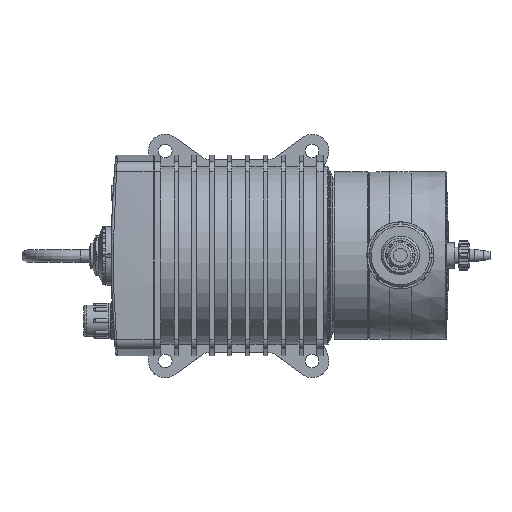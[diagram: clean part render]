
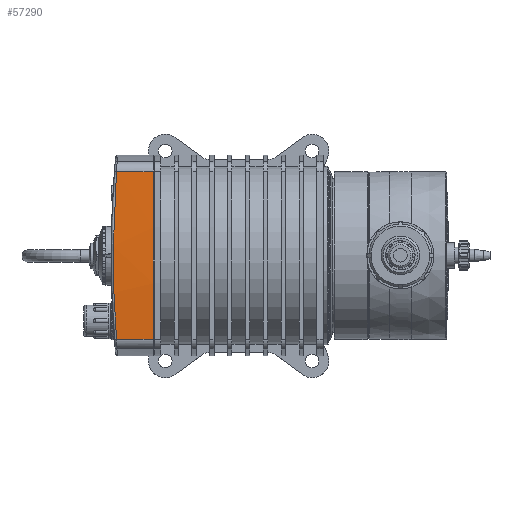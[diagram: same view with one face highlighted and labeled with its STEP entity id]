
A CAD part, top view. The second image highlights one B-rep face of the part: STEP entity #57290.
In plain terms, the highlighted cylindrical face has radius 560 mm (diameter 1120 mm), a partial arc.
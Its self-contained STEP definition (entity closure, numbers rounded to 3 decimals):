
#1501 = LINE ( 'NONE', #41528, #38592 ) ;
#1896 = CARTESIAN_POINT ( 'NONE',  ( -86.5, -39.963, 46.322 ) ) ;
#3829 = ORIENTED_EDGE ( 'NONE', *, *, #28697, .F. ) ;
#4889 = ORIENTED_EDGE ( 'NONE', *, *, #49623, .T. ) ;
#8037 = CARTESIAN_POINT ( 'NONE',  ( -86.5, 39.963, 46.322 ) ) ;
#8742 = CARTESIAN_POINT ( 'NONE',  ( -104.99, 26.642, 47.275 ) ) ;
#8873 = CARTESIAN_POINT ( 'NONE',  ( -417.461, 0., -512.25 ) ) ;
#13098 = CIRCLE ( 'NONE', #60208, 560. ) ;
#13512 = B_SPLINE_CURVE_WITH_KNOTS ( 'NONE', 3,
 ( #89543, #8742, #68008, #23606, #75440 ),
 .UNSPECIFIED., .F., .F.,
 ( 4, 1, 4 ),
 ( 0., 0.04, 0.08 ),
 .UNSPECIFIED. ) ;
#13774 = VECTOR ( 'NONE', #95978, 1000. ) ;
#23271 = ORIENTED_EDGE ( 'NONE', *, *, #53991, .F. ) ;
#23606 = CARTESIAN_POINT ( 'NONE',  ( -104.99, -26.642, 47.275 ) ) ;
#25683 = DIRECTION ( 'NONE',  ( 1., 0., 0. ) ) ;
#27873 = FACE_OUTER_BOUND ( 'NONE', #87657, .T. ) ;
#28697 = EDGE_CURVE ( 'NONE', #54700, #63777, #72882, .T. ) ;
#29176 = VERTEX_POINT ( 'NONE', #35097 ) ;
#31150 = DIRECTION ( 'NONE',  ( 0., 0., -1. ) ) ;
#35097 = CARTESIAN_POINT ( 'NONE',  ( -103.965, -39.963, 46.322 ) ) ;
#38592 = VECTOR ( 'NONE', #85763, 1000. ) ;
#41528 = CARTESIAN_POINT ( 'NONE',  ( -417.461, -39.963, 46.322 ) ) ;
#42854 = CARTESIAN_POINT ( 'NONE',  ( -103.965, 39.963, 46.322 ) ) ;
#49623 = EDGE_CURVE ( 'NONE', #29176, #60349, #1501, .T. ) ;
#53991 = EDGE_CURVE ( 'NONE', #63777, #60349, #13098, .T. ) ;
#54700 = VERTEX_POINT ( 'NONE', #42854 ) ;
#57290 = ADVANCED_FACE ( 'NONE', ( #27873 ), #82301, .T. ) ;
#58617 = CARTESIAN_POINT ( 'NONE',  ( -417.461, 39.963, 46.322 ) ) ;
#60047 = ORIENTED_EDGE ( 'NONE', *, *, #94109, .T. ) ;
#60208 = AXIS2_PLACEMENT_3D ( 'NONE', #70094, #25683, #77510 ) ;
#60349 = VERTEX_POINT ( 'NONE', #1896 ) ;
#63777 = VERTEX_POINT ( 'NONE', #8037 ) ;
#68008 = CARTESIAN_POINT ( 'NONE',  ( -106.01, 0., 48.225 ) ) ;
#70094 = CARTESIAN_POINT ( 'NONE',  ( -86.5, 0., -512.25 ) ) ;
#72882 = LINE ( 'NONE', #58617, #13774 ) ;
#75440 = CARTESIAN_POINT ( 'NONE',  ( -103.965, -39.963, 46.322 ) ) ;
#77510 = DIRECTION ( 'NONE',  ( 0., 0.071, 0.997 ) ) ;
#82301 = CYLINDRICAL_SURFACE ( 'NONE', #94341, 560. ) ;
#82954 = DIRECTION ( 'NONE',  ( 1., 0., 0. ) ) ;
#85763 = DIRECTION ( 'NONE',  ( 1., 0., 0. ) ) ;
#87657 = EDGE_LOOP ( 'NONE', ( #23271, #3829, #60047, #4889 ) ) ;
#89543 = CARTESIAN_POINT ( 'NONE',  ( -103.965, 39.963, 46.322 ) ) ;
#94109 = EDGE_CURVE ( 'NONE', #54700, #29176, #13512, .T. ) ;
#94341 = AXIS2_PLACEMENT_3D ( 'NONE', #8873, #82954, #31150 ) ;
#95978 = DIRECTION ( 'NONE',  ( 1., 0., 0. ) ) ;
